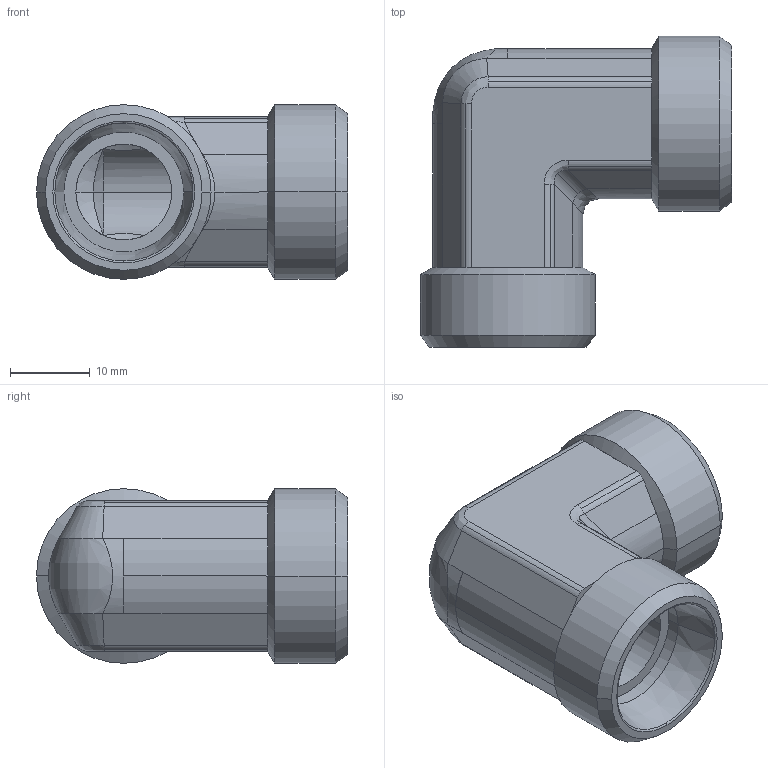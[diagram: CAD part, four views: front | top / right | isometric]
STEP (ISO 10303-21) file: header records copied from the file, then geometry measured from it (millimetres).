
FILE_DESCRIPTION((''),'2;1');
FILE_NAME('103808.stp','2007-10-31T11:53:39',(''),(''),'AutoCAD STEP 2000i','AutoCAD 2000i',', , ');
FILE_SCHEMA(('CONFIG_CONTROL_DESIGN'));
Length unit declared in the file: millimetre
Products named in the file (2): 103808.0; 3090#0
Assembly tree (1 placements, depth 2):
  103808.0
    3090#0
Bounding box: 38.92 x 38.92 x 21.85 mm (x, y, z)
Volume: 10307.6 mm3; surface area: 6270 mm2
Topology: 1 solids, 1 shells, 104 faces, 234 edges, 134 vertices
Faces by surface type: cylinder 44, plane 26, cone 20, bspline 14
Entity records: 3747 total; most frequent: CARTESIAN_POINT 1314, DIRECTION 526, ORIENTED_EDGE 468, EDGE_CURVE 234, AXIS2_PLACEMENT_3D 218, VERTEX_POINT 134, CIRCLE 108, EDGE_LOOP 108
